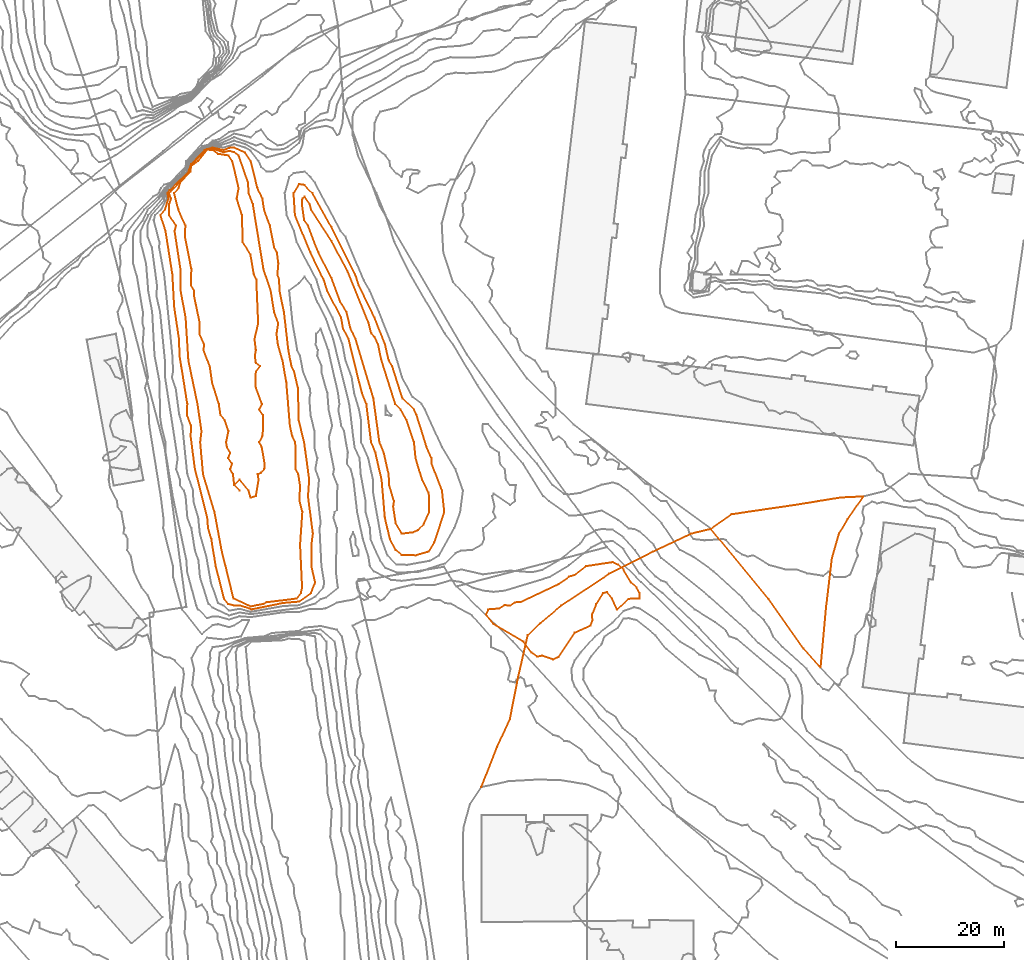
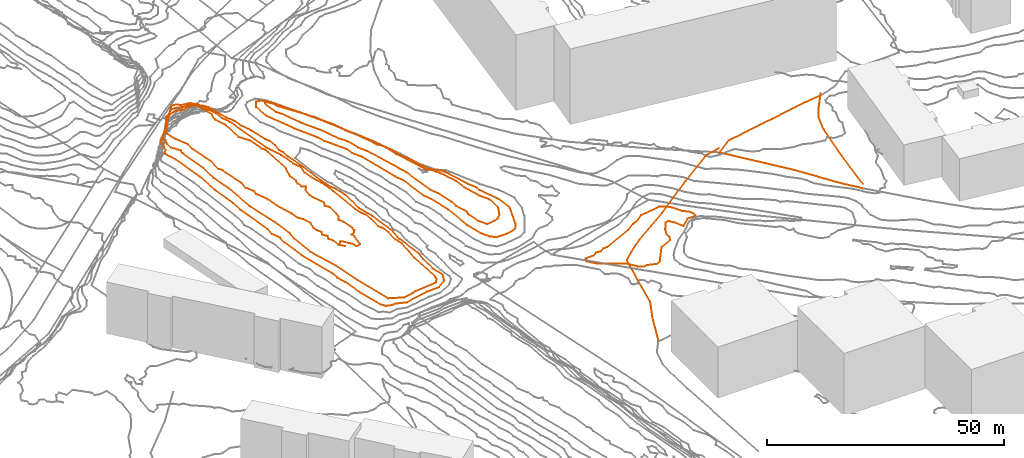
# Not in any storey, part 154 of 419: 10 proxies.
"""IFC2X3 model written with IfcOpenShell, lengths in metres."""

from ifc_helpers import new_model, entity, si_unit, frame, origin_with_axes, place, context, subcontext, project, element, save


model = new_model("IFC2X3")

# Units and contexts
model_context = context("Model", 3, precision=1e-05, world=origin_with_axes())
body_context = subcontext(model_context, "Body", "Model", "MODEL_VIEW")
ifc_project = project(units=[si_unit("AREAUNIT", "SQUARE_METRE"), si_unit("LENGTHUNIT", "METRE")], contexts=[model_context])

# Proxies
proxy_1_placement = place(None, frame((241.7920204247, 602.9976909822, 23.4827996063), z_axis=(0.0, 0.0, 1.0), x_axis=(1.0, 0.0, 0.0)))
element("IfcBuildingElementProxy", 1, at=proxy_1_placement, Name="Route 54", ObjectType="NOTDEFINED", context=body_context, shape_type="GeometricCurveSet", body=[
    entity("IfcGeometricCurveSet", [entity("IfcPolyline", [entity("IfcCartesianPoint", [42.5, 47.8000000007, 5.5912005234]), entity("IfcCartesianPoint", [38.8, 46.9000000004, 5.532200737]), entity("IfcCartesianPoint", [31.8, 43.6000000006, 3.3452010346]), entity("IfcCartesianPoint", [23.7000000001, 39.5, 0.3943996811]), entity("IfcCartesianPoint", [14.8, 33.6000000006, 0.273200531]), entity("IfcCartesianPoint", [11.0, 30.4000000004, 0.3872012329]), entity("IfcCartesianPoint", [8.6000000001, 28.1000000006, 0.4504006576]), entity("IfcCartesianPoint", [6.9, 20.7000000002, 0.5035007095]), entity("IfcCartesianPoint", [5.3, 12.6000000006, 0.3392001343]), entity("IfcCartesianPoint", [2.9, 7.4000000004, 0.0292006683]), entity("IfcCartesianPoint", [0.0, 0.0, 0.0])])]),
])
proxy_2_placement = place(None, frame((284.2920204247, 650.7976909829, 27.9), z_axis=(0.0, 0.0, 1.0), x_axis=(1.0, 0.0, 0.0)))
element("IfcBuildingElementProxy", 2, at=proxy_2_placement, Name="Route 112", ObjectType="NOTDEFINED", context=body_context, shape_type="GeometricCurveSet", body=[
    entity("IfcGeometricCurveSet", [entity("IfcPolyline", [entity("IfcCartesianPoint", [20.3, -25.7000000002, -0.8]), entity("IfcCartesianPoint", [17.2000000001, -22.2000000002, -0.6]), entity("IfcCartesianPoint", [10.7000000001, -13.0, -0.4]), entity("IfcCartesianPoint", [0.0, 0.0, 0.0])])]),
])
proxy_3_placement = place(None, frame((284.2920204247, 650.7976909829, 27.9), z_axis=(0.0, 0.0, 1.0), x_axis=(1.0, 0.0, 0.0)))
element("IfcBuildingElementProxy", 3, at=proxy_3_placement, Name="Route 334", ObjectType="NOTDEFINED", context=body_context, shape_type="GeometricCurveSet", body=[
    entity("IfcGeometricCurveSet", [entity("IfcPolyline", [entity("IfcCartesianPoint", [0.0, 0.0, 0.0]), entity("IfcCartesianPoint", [3.8, 2.6999999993, 0.1]), entity("IfcCartesianPoint", [15.4, 4.3999999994, 0.6]), entity("IfcCartesianPoint", [24.0, 5.7999999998, 0.9]), entity("IfcCartesianPoint", [28.2000000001, 6.0, 1.2])])]),
])
proxy_4_placement = place(None, frame((304.5920204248, 625.0976909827, 28.1550003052), z_axis=(0.0, 0.0, 1.0), x_axis=(1.0, 0.0, 0.0)))
element("IfcBuildingElementProxy", 4, at=proxy_4_placement, Name="Route 335", ObjectType="NOTDEFINED", context=body_context, shape_type="GeometricCurveSet", body=[
    entity("IfcGeometricCurveSet", [entity("IfcPolyline", [entity("IfcCartesianPoint", [0.0, 0.0, 0.0]), entity("IfcCartesianPoint", [1.0, 11.0, 0.4699993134]), entity("IfcCartesianPoint", [2.1, 20.2999999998, 1.0059995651]), entity("IfcCartesianPoint", [3.4, 24.7999999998, 1.1719997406]), entity("IfcCartesianPoint", [5.0, 27.5, 1.3469997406]), entity("IfcCartesianPoint", [7.9, 31.7000000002, 1.3781991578])])]),
])
proxy_5_placement = place(None, frame((184.9586865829, 712.8976909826, 30.0), z_axis=(0.0, 0.0, 1.0), x_axis=(1.0, 0.0, 0.0)))
element("IfcBuildingElementProxy", 5, at=proxy_5_placement, Name="Contour 30.0 m", ObjectType="NOTDEFINED", context=body_context, shape_type="GeometricCurveSet", body=[
    entity("IfcGeometricCurveSet", [entity("IfcPolyline", [entity("IfcCartesianPoint", [15.1334338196, -56.0, 0.0]), entity("IfcCartesianPoint", [14.1333338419, -56.333333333, 0.0]), entity("IfcCartesianPoint", [13.8000005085, -55.0, 0.0]), entity("IfcCartesianPoint", [12.1333338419, -53.0000499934, 0.0]), entity("IfcCartesianPoint", [11.1333838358, -54.0, 0.0]), entity("IfcCartesianPoint", [12.1333838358, -55.0, 0.0]), entity("IfcCartesianPoint", [11.1333338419, -54.0000499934, 0.0]), entity("IfcCartesianPoint", [10.8952411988, -52.0, 0.0]), entity("IfcCartesianPoint", [10.3833338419, -51.0, 0.0]), entity("IfcCartesianPoint", [10.7166698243, -50.0, 0.0]), entity("IfcCartesianPoint", [10.0083308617, -49.0, 0.0]), entity("IfcCartesianPoint", [10.3833398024, -48.0, 0.0]), entity("IfcCartesianPoint", [9.7733332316, -47.0, 0.0]), entity("IfcCartesianPoint", [9.6333302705, -46.0, 0.0]), entity("IfcCartesianPoint", [10.0333319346, -44.0, 0.0]), entity("IfcCartesianPoint", [9.3833368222, -42.0, 0.0]), entity("IfcCartesianPoint", [8.5948711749, -41.0, 0.0]), entity("IfcCartesianPoint", [8.276192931, -39.0, 0.0]), entity("IfcCartesianPoint", [7.0333319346, -35.0, 0.0]), entity("IfcCartesianPoint", [6.5999996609, -32.0, 0.0]), entity("IfcCartesianPoint", [5.4376809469, -29.0, 0.0]), entity("IfcCartesianPoint", [5.5708323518, -28.0, 0.0]), entity("IfcCartesianPoint", [4.666668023, -26.0, 0.0]), entity("IfcCartesianPoint", [4.7487218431, -24.0, 0.0]), entity("IfcCartesianPoint", [3.7047643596, -19.0, 0.0]), entity("IfcCartesianPoint", [3.7166698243, -18.0, 0.0]), entity("IfcCartesianPoint", [3.1125000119, -17.0, 0.0]), entity("IfcCartesianPoint", [3.2000017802, -14.0, 0.0]), entity("IfcCartesianPoint", [2.0196988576, -8.0, 0.0]), entity("IfcCartesianPoint", [2.0878782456, -6.0, 0.0]), entity("IfcCartesianPoint", [0.7844977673, -3.0, 0.0]), entity("IfcCartesianPoint", [0.0, 0.0, 0.0]), entity("IfcCartesianPoint", [0.8223579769, 1.0, 0.0]), entity("IfcCartesianPoint", [1.1100006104, 2.0, 0.0]), entity("IfcCartesianPoint", [3.0218096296, 4.0, 0.0]), entity("IfcCartesianPoint", [3.1333338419, 5.0415093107, 0.0]), entity("IfcCartesianPoint", [4.4266662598, 6.0, 0.0]), entity("IfcCartesianPoint", [6.1333338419, 8.0702576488, 0.0]), entity("IfcCartesianPoint", [7.1010750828, 8.0, 0.0]), entity("IfcCartesianPoint", [8.1333338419, 7.2892156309, 0.0]), entity("IfcCartesianPoint", [10.090779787, 7.0, 0.0]), entity("IfcCartesianPoint", [10.7637692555, 6.0, 0.0]), entity("IfcCartesianPoint", [11.945835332, 1.0, 0.0]), entity("IfcCartesianPoint", [11.5904757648, -1.0, 0.0]), entity("IfcCartesianPoint", [12.5526866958, -4.0, 0.0]), entity("IfcCartesianPoint", [12.7047604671, -9.0, 0.0]), entity("IfcCartesianPoint", [14.1333338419, -11.3333290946, 0.0]), entity("IfcCartesianPoint", [14.7629626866, -15.0, 0.0]), entity("IfcCartesianPoint", [15.2195394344, -16.0, 0.0]), entity("IfcCartesianPoint", [15.5619052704, -24.0, 0.0]), entity("IfcCartesianPoint", [14.8833338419, -27.0, 0.0]), entity("IfcCartesianPoint", [15.1333538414, -29.0, 0.0]), entity("IfcCartesianPoint", [14.9458293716, -30.0, 0.0]), entity("IfcCartesianPoint", [15.1333338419, -31.4000000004, 0.0]), entity("IfcCartesianPoint", [15.8833338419, -32.0, 0.0]), entity("IfcCartesianPoint", [15.1334338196, -33.0, 0.0]), entity("IfcCartesianPoint", [15.0333319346, -35.0, 0.0]), entity("IfcCartesianPoint", [15.1333538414, -36.0, 0.0]), entity("IfcCartesianPoint", [16.2583368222, -39.0, 0.0]), entity("IfcCartesianPoint", [15.769691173, -40.0, 0.0]), entity("IfcCartesianPoint", [16.4333395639, -41.0, 0.0]), entity("IfcCartesianPoint", [16.4274468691, -44.0, 0.0]), entity("IfcCartesianPoint", [16.3208383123, -45.0, 0.0]), entity("IfcCartesianPoint", [15.7583249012, -46.0, 0.0]), entity("IfcCartesianPoint", [16.2242445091, -47.0, 0.0]), entity("IfcCartesianPoint", [16.7583249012, -50.0, 0.0]), entity("IfcCartesianPoint", [16.6888799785, -51.0, 0.0]), entity("IfcCartesianPoint", [16.1333338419, -51.7142779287, 0.0]), entity("IfcCartesianPoint", [15.4666671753, -52.0, 0.0]), entity("IfcCartesianPoint", [15.6333588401, -53.0, 0.0]), entity("IfcCartesianPoint", [15.1334338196, -56.0, 0.0])])]),
])
proxy_6_placement = place(None, frame((208.6105393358, 710.8976909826, 30.0), z_axis=(0.0, 0.0, 1.0), x_axis=(1.0, 0.0, 0.0)))
element("IfcBuildingElementProxy", 6, at=proxy_6_placement, Name="Contour 30.0 m", ObjectType="NOTDEFINED", context=body_context, shape_type="GeometricCurveSet", body=[
    entity("IfcGeometricCurveSet", [entity("IfcPolyline", [entity("IfcCartesianPoint", [18.4815810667, -61.0, 0.0]), entity("IfcCartesianPoint", [17.3614821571, -59.0, 0.0]), entity("IfcCartesianPoint", [16.89527578, -56.0, 0.0]), entity("IfcCartesianPoint", [17.0455827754, -55.0, 0.0]), entity("IfcCartesianPoint", [16.1579519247, -52.0, 0.0]), entity("IfcCartesianPoint", [16.0529096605, -50.0, 0.0]), entity("IfcCartesianPoint", [15.1529097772, -46.0, 0.0]), entity("IfcCartesianPoint", [14.343550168, -44.0, 0.0]), entity("IfcCartesianPoint", [13.2314819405, -36.0, 0.0]), entity("IfcCartesianPoint", [12.6579518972, -34.0, 0.0]), entity("IfcCartesianPoint", [9.937362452, -25.0, 0.0]), entity("IfcCartesianPoint", [8.9953702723, -23.0, 0.0]), entity("IfcCartesianPoint", [8.2561289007, -20.0, 0.0]), entity("IfcCartesianPoint", [7.0814805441, -18.0, 0.0]), entity("IfcCartesianPoint", [5.481481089, -13.7142866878, 0.0]), entity("IfcCartesianPoint", [3.0507118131, -9.0, 0.0]), entity("IfcCartesianPoint", [1.1293679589, -4.0, 0.0]), entity("IfcCartesianPoint", [0.4425191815, -3.0, 0.0]), entity("IfcCartesianPoint", [0.0, 0.0, 0.0]), entity("IfcCartesianPoint", [0.0814795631, 1.0, 0.0]), entity("IfcCartesianPoint", [0.481481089, 1.3846165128, 0.0]), entity("IfcCartesianPoint", [1.4444432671, 0.0, 0.0]), entity("IfcCartesianPoint", [1.7059722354, -1.0, 0.0]), entity("IfcCartesianPoint", [5.481481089, -6.8108110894, 0.0]), entity("IfcCartesianPoint", [8.481481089, -12.5161294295, 0.0]), entity("IfcCartesianPoint", [12.3471525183, -22.0, 0.0]), entity("IfcCartesianPoint", [12.8660960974, -24.0, 0.0]), entity("IfcCartesianPoint", [13.481481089, -24.63157974, 0.0]), entity("IfcCartesianPoint", [14.1021711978, -26.0, 0.0]), entity("IfcCartesianPoint", [14.7412221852, -29.0, 0.0]), entity("IfcCartesianPoint", [17.2814803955, -37.0, 0.0]), entity("IfcCartesianPoint", [18.298146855, -38.0, 0.0]), entity("IfcCartesianPoint", [19.3614821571, -40.0, 0.0]), entity("IfcCartesianPoint", [20.7314820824, -44.0, 0.0]), entity("IfcCartesianPoint", [21.0370342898, -47.0, 0.0]), entity("IfcCartesianPoint", [22.2461816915, -51.0, 0.0]), entity("IfcCartesianPoint", [23.481481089, -53.4285714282, 0.0]), entity("IfcCartesianPoint", [23.5291010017, -57.0, 0.0]), entity("IfcCartesianPoint", [22.481481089, -59.2857220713, 0.0]), entity("IfcCartesianPoint", [21.481481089, -60.333333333, 0.0]), entity("IfcCartesianPoint", [20.481481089, -60.7499940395, 0.0]), entity("IfcCartesianPoint", [18.4815810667, -61.0, 0.0])])]),
])
proxy_7_placement = place(None, frame((207.0653531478, 712.8976909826, 29.0), z_axis=(0.0, 0.0, 1.0), x_axis=(1.0, 0.0, 0.0)))
element("IfcBuildingElementProxy", 7, at=proxy_7_placement, Name="Contour 29.0 m", ObjectType="NOTDEFINED", context=body_context, shape_type="GeometricCurveSet", body=[
    entity("IfcGeometricCurveSet", [entity("IfcPolyline", [entity("IfcCartesianPoint", [22.5891687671, -67.0, 0.0]), entity("IfcCartesianPoint", [20.026667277, -66.967741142, 0.0]), entity("IfcCartesianPoint", [18.8984639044, -66.0, 0.0]), entity("IfcCartesianPoint", [17.8433330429, -64.0, 0.0]), entity("IfcCartesianPoint", [16.8950878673, -60.0, 0.0]), entity("IfcCartesianPoint", [16.2993938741, -53.0, 0.0]), entity("IfcCartesianPoint", [15.1433333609, -48.0, 0.0]), entity("IfcCartesianPoint", [14.3509913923, -46.0, 0.0]), entity("IfcCartesianPoint", [13.4695243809, -39.0, 0.0]), entity("IfcCartesianPoint", [12.6590203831, -37.0, 0.0]), entity("IfcCartesianPoint", [10.1852028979, -27.0, 0.0]), entity("IfcCartesianPoint", [9.1636541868, -25.0, 0.0]), entity("IfcCartesianPoint", [8.8044457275, -23.0, 0.0]), entity("IfcCartesianPoint", [6.2300584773, -18.0, 0.0]), entity("IfcCartesianPoint", [5.5773917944, -16.0, 0.0]), entity("IfcCartesianPoint", [3.1266670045, -11.0, 0.0]), entity("IfcCartesianPoint", [0.2583753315, -4.0, 0.0]), entity("IfcCartesianPoint", [0.0, 0.0, 0.0]), entity("IfcCartesianPoint", [1.026667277, 1.7027017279, 0.0]), entity("IfcCartesianPoint", [2.026667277, 1.5476178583, 0.0]), entity("IfcCartesianPoint", [3.4882048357, 0.0, 0.0]), entity("IfcCartesianPoint", [7.026667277, -6.2888877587, 0.0]), entity("IfcCartesianPoint", [11.4090201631, -15.0, 0.0]), entity("IfcCartesianPoint", [12.0603758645, -17.0, 0.0]), entity("IfcCartesianPoint", [14.9790472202, -23.0, 0.0]), entity("IfcCartesianPoint", [16.9444761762, -28.0, 0.0]), entity("IfcCartesianPoint", [17.6323006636, -31.0, 0.0]), entity("IfcCartesianPoint", [18.2549276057, -32.0, 0.0]), entity("IfcCartesianPoint", [20.1562965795, -38.0, 0.0]), entity("IfcCartesianPoint", [22.2647633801, -40.0, 0.0]), entity("IfcCartesianPoint", [22.7613627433, -41.0, 0.0]), entity("IfcCartesianPoint", [24.6185038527, -47.0, 0.0]), entity("IfcCartesianPoint", [25.4972548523, -49.0, 0.0]), entity("IfcCartesianPoint", [25.5388603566, -50.0, 0.0]), entity("IfcCartesianPoint", [27.476668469, -55.0, 0.0]), entity("IfcCartesianPoint", [27.8933347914, -59.0, 0.0]), entity("IfcCartesianPoint", [26.026667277, -64.6315815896, 0.0]), entity("IfcCartesianPoint", [25.026667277, -66.2708318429, 0.0]), entity("IfcCartesianPoint", [22.5891687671, -67.0, 0.0])])]),
])
proxy_8_placement = place(None, frame((184.0003972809, 712.8976909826, 29.0), z_axis=(0.0, 0.0, 1.0), x_axis=(1.0, 0.0, 0.0)))
element("IfcBuildingElementProxy", 8, at=proxy_8_placement, Name="Contour 29.0 m", ObjectType="NOTDEFINED", context=body_context, shape_type="GeometricCurveSet", body=[
    entity("IfcGeometricCurveSet", [entity("IfcPolyline", [entity("IfcCartesianPoint", [17.407413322, -76.0, 0.0]), entity("IfcCartesianPoint", [15.0916231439, -76.4606063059, 0.0]), entity("IfcCartesianPoint", [11.9516237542, -75.0, 0.0]), entity("IfcCartesianPoint", [9.7446840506, -66.0, 0.0]), entity("IfcCartesianPoint", [8.4385622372, -59.0, 0.0]), entity("IfcCartesianPoint", [6.3138465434, -52.0, 0.0]), entity("IfcCartesianPoint", [5.7916239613, -46.0, 0.0]), entity("IfcCartesianPoint", [6.0316217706, -44.0, 0.0]), entity("IfcCartesianPoint", [5.2991711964, -39.0, 0.0]), entity("IfcCartesianPoint", [3.6162122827, -31.0, 0.0]), entity("IfcCartesianPoint", [3.0916212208, -23.0, 0.0]), entity("IfcCartesianPoint", [2.1749554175, -18.0, 0.0]), entity("IfcCartesianPoint", [2.1408045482, -14.0, 0.0]), entity("IfcCartesianPoint", [1.0608531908, -7.0, 0.0]), entity("IfcCartesianPoint", [1.32079039, -6.0, 0.0]), entity("IfcCartesianPoint", [0.0214462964, -4.0, 0.0]), entity("IfcCartesianPoint", [0.048560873, -2.0, 0.0]), entity("IfcCartesianPoint", [0.4027342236, -1.0, 0.0]), entity("IfcCartesianPoint", [0.0, 0.0, 0.0]), entity("IfcCartesianPoint", [3.7942253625, 4.0, 0.0]), entity("IfcCartesianPoint", [4.0916231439, 5.230188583, 0.0]), entity("IfcCartesianPoint", [7.0916231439, 8.1873536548, 0.0]), entity("IfcCartesianPoint", [8.0916231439, 8.2158589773, 0.0]), entity("IfcCartesianPoint", [10.0916231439, 7.5894309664, 0.0]), entity("IfcCartesianPoint", [11.0916231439, 7.8376063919, 0.0]), entity("IfcCartesianPoint", [12.0916231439, 7.5897433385, 0.0]), entity("IfcCartesianPoint", [12.9130508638, 7.0, 0.0]), entity("IfcCartesianPoint", [14.6370770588, 2.0, 0.0]), entity("IfcCartesianPoint", [14.7701937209, 0.0, 0.0]), entity("IfcCartesianPoint", [15.5316217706, -2.0, 0.0]), entity("IfcCartesianPoint", [17.4970286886, -14.0, 0.0]), entity("IfcCartesianPoint", [18.8416219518, -18.0, 0.0]), entity("IfcCartesianPoint", [19.4694004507, -22.0, 0.0]), entity("IfcCartesianPoint", [20.2305123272, -24.0, 0.0]), entity("IfcCartesianPoint", [19.9079492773, -26.0, 0.0]), entity("IfcCartesianPoint", [20.1700562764, -28.0, 0.0]), entity("IfcCartesianPoint", [21.0403400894, -31.0, 0.0]), entity("IfcCartesianPoint", [21.7279875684, -35.0, 0.0]), entity("IfcCartesianPoint", [22.3916223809, -43.0, 0.0]), entity("IfcCartesianPoint", [22.8416221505, -45.0, 0.0]), entity("IfcCartesianPoint", [23.3814790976, -46.0, 0.0]), entity("IfcCartesianPoint", [23.4746015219, -51.0, 0.0]), entity("IfcCartesianPoint", [23.9452829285, -52.0, 0.0]), entity("IfcCartesianPoint", [24.2555580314, -54.0, 0.0]), entity("IfcCartesianPoint", [24.1763675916, -57.0, 0.0]), entity("IfcCartesianPoint", [24.6962744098, -59.0, 0.0]), entity("IfcCartesianPoint", [24.2768087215, -65.0, 0.0]), entity("IfcCartesianPoint", [24.6516245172, -73.0, 0.0]), entity("IfcCartesianPoint", [24.4116228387, -74.0, 0.0]), entity("IfcCartesianPoint", [23.660853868, -75.0, 0.0]), entity("IfcCartesianPoint", [18.0916231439, -75.6829272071, 0.0]), entity("IfcCartesianPoint", [17.407413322, -76.0, 0.0])])]),
])
proxy_9_placement = place(None, frame((182.4205917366, 708.8976909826, 28.0), z_axis=(0.0, 0.0, 1.0), x_axis=(1.0, 0.0, 0.0)))
element("IfcBuildingElementProxy", 9, at=proxy_9_placement, Name="Contour 28.0 m", ObjectType="NOTDEFINED", context=body_context, shape_type="GeometricCurveSet", body=[
    entity("IfcGeometricCurveSet", [entity("IfcPolyline", [entity("IfcCartesianPoint", [16.8914299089, -73.0, 0.0]), entity("IfcCartesianPoint", [14.6714286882, -72.2645161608, 0.0]), entity("IfcCartesianPoint", [13.6714286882, -72.3237412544, 0.0]), entity("IfcCartesianPoint", [12.5509462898, -72.0, 0.0]), entity("IfcCartesianPoint", [11.7808033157, -71.0, 0.0]), entity("IfcCartesianPoint", [10.2511378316, -65.0, 0.0]), entity("IfcCartesianPoint", [9.4294934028, -60.0, 0.0]), entity("IfcCartesianPoint", [8.8266013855, -58.0, 0.0]), entity("IfcCartesianPoint", [8.6714271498, -56.0, 0.0]), entity("IfcCartesianPoint", [6.3955665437, -47.0, 0.0]), entity("IfcCartesianPoint", [5.6180941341, -41.0, 0.0]), entity("IfcCartesianPoint", [5.6560437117, -39.0, 0.0]), entity("IfcCartesianPoint", [4.912168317, -37.0, 0.0]), entity("IfcCartesianPoint", [4.9872188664, -35.0, 0.0]), entity("IfcCartesianPoint", [3.5494769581, -26.0, 0.0]), entity("IfcCartesianPoint", [3.4560448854, -23.0, 0.0]), entity("IfcCartesianPoint", [2.5502166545, -17.0, 0.0]), entity("IfcCartesianPoint", [2.2285715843, -11.0, 0.0]), entity("IfcCartesianPoint", [0.9598892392, -3.0, 0.0]), entity("IfcCartesianPoint", [0.0, 0.0, 0.0]), entity("IfcCartesianPoint", [0.8317333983, 1.0, 0.0]), entity("IfcCartesianPoint", [1.4843319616, 3.0, 0.0]), entity("IfcCartesianPoint", [1.3180254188, 4.0, 0.0]), entity("IfcCartesianPoint", [1.6714286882, 4.5510203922, 0.0]), entity("IfcCartesianPoint", [5.1881573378, 8.0, 0.0]), entity("IfcCartesianPoint", [5.6714286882, 9.4188678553, 0.0]), entity("IfcCartesianPoint", [8.1503865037, 12.0, 0.0]), entity("IfcCartesianPoint", [9.6714286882, 12.4361233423, 0.0]), entity("IfcCartesianPoint", [11.6714286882, 11.9959348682, 0.0]), entity("IfcCartesianPoint", [12.6714286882, 12.415384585, 0.0]), entity("IfcCartesianPoint", [13.6714286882, 12.4331212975, 0.0]), entity("IfcCartesianPoint", [15.6714286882, 11.5312507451, 0.0]), entity("IfcCartesianPoint", [16.7155473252, 10.0, 0.0]), entity("IfcCartesianPoint", [17.9492070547, 5.0, 0.0]), entity("IfcCartesianPoint", [18.8835490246, 3.0, 0.0]), entity("IfcCartesianPoint", [19.1842494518, 1.0, 0.0]), entity("IfcCartesianPoint", [20.2567942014, -2.0, 0.0]), entity("IfcCartesianPoint", [21.077676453, -6.0, 0.0]), entity("IfcCartesianPoint", [21.5776770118, -7.0, 0.0]), entity("IfcCartesianPoint", [21.8327168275, -9.0, 0.0]), entity("IfcCartesianPoint", [21.6510200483, -11.0, 0.0]), entity("IfcCartesianPoint", [21.9775505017, -12.0, 0.0]), entity("IfcCartesianPoint", [22.0523812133, -14.0, 0.0]), entity("IfcCartesianPoint", [22.8739603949, -18.0, 0.0]), entity("IfcCartesianPoint", [23.6865805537, -25.0, 0.0]), entity("IfcCartesianPoint", [24.2604705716, -28.0, 0.0]), entity("IfcCartesianPoint", [24.7561731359, -29.0, 0.0]), entity("IfcCartesianPoint", [25.4609014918, -32.0, 0.0]), entity("IfcCartesianPoint", [25.6069111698, -38.0, 0.0]), entity("IfcCartesianPoint", [26.5986999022, -42.0, 0.0]), entity("IfcCartesianPoint", [27.5502144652, -49.0, 0.0]), entity("IfcCartesianPoint", [27.3229444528, -52.0, 0.0]), entity("IfcCartesianPoint", [28.224999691, -59.0, 0.0]), entity("IfcCartesianPoint", [27.9492062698, -61.0, 0.0]), entity("IfcCartesianPoint", [27.9603164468, -65.0, 0.0]), entity("IfcCartesianPoint", [28.6428566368, -68.0, 0.0]), entity("IfcCartesianPoint", [27.8453428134, -70.0, 0.0]), entity("IfcCartesianPoint", [25.6714286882, -71.5714279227, 0.0]), entity("IfcCartesianPoint", [22.6714286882, -71.8218393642, 0.0]), entity("IfcCartesianPoint", [16.8914299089, -73.0, 0.0])])]),
])
proxy_10_placement = place(None, frame((242.6920204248, 634.8976909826, 24.0), z_axis=(0.0, 0.0, 1.0), x_axis=(1.0, 0.0, 0.0)))
element("IfcBuildingElementProxy", 10, at=proxy_10_placement, Name="Contour 24.0 m", ObjectType="NOTDEFINED", context=body_context, shape_type="GeometricCurveSet", body=[
    entity("IfcGeometricCurveSet", [entity("IfcPolyline", [entity("IfcCartesianPoint", [12.4, -8.25, 0.0]), entity("IfcCartesianPoint", [13.4, -7.7999999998, 0.0]), entity("IfcCartesianPoint", [16.4, -3.333333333, 0.0]), entity("IfcCartesianPoint", [19.3090893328, -2.0, 0.0]), entity("IfcCartesianPoint", [19.6857220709, -1.0, 0.0]), entity("IfcCartesianPoint", [19.6, 0.0, 0.0]), entity("IfcCartesianPoint", [20.3999857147, 2.0, 0.0]), entity("IfcCartesianPoint", [21.65, 4.0, 0.0]), entity("IfcCartesianPoint", [22.4, 4.2142886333, 0.0]), entity("IfcCartesianPoint", [23.3090893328, 3.0, 0.0]), entity("IfcCartesianPoint", [24.2333280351, 1.0, 0.0]), entity("IfcCartesianPoint", [26.4, 2.9473673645, 0.0]), entity("IfcCartesianPoint", [28.3999500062, 3.0, 0.0]), entity("IfcCartesianPoint", [28.3999666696, 4.0, 0.0]), entity("IfcCartesianPoint", [27.8374985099, 5.0, 0.0]), entity("IfcCartesianPoint", [26.8285701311, 6.0, 0.0]), entity("IfcCartesianPoint", [25.4, 8.3809536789, 0.0]), entity("IfcCartesianPoint", [24.4, 9.2499976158, 0.0]), entity("IfcCartesianPoint", [23.4, 9.7272679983, 0.0]), entity("IfcCartesianPoint", [18.4769242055, 9.0, 0.0]), entity("IfcCartesianPoint", [16.4, 7.3636371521, 0.0]), entity("IfcCartesianPoint", [15.4, 7.0638310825, 0.0]), entity("IfcCartesianPoint", [13.4, 5.6666701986, 0.0]), entity("IfcCartesianPoint", [6.4, 2.3500004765, 0.0]), entity("IfcCartesianPoint", [5.4, 2.2962955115, 0.0]), entity("IfcCartesianPoint", [4.4, 1.6923031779, 0.0]), entity("IfcCartesianPoint", [3.4, 1.7777730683, 0.0]), entity("IfcCartesianPoint", [2.4, 1.1538484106, 0.0]), entity("IfcCartesianPoint", [0.4000333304, 1.0, 0.0]), entity("IfcCartesianPoint", [0.0, 0.0, 0.0]), entity("IfcCartesianPoint", [1.4, -1.75, 0.0]), entity("IfcCartesianPoint", [6.9000499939, -5.0, 0.0]), entity("IfcCartesianPoint", [8.4, -6.999983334, 0.0]), entity("IfcCartesianPoint", [9.4, -7.75, 0.0]), entity("IfcCartesianPoint", [10.4, -7.5714285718, 0.0]), entity("IfcCartesianPoint", [12.4, -8.25, 0.0])])]),
])

save(model, "model.ifc")
